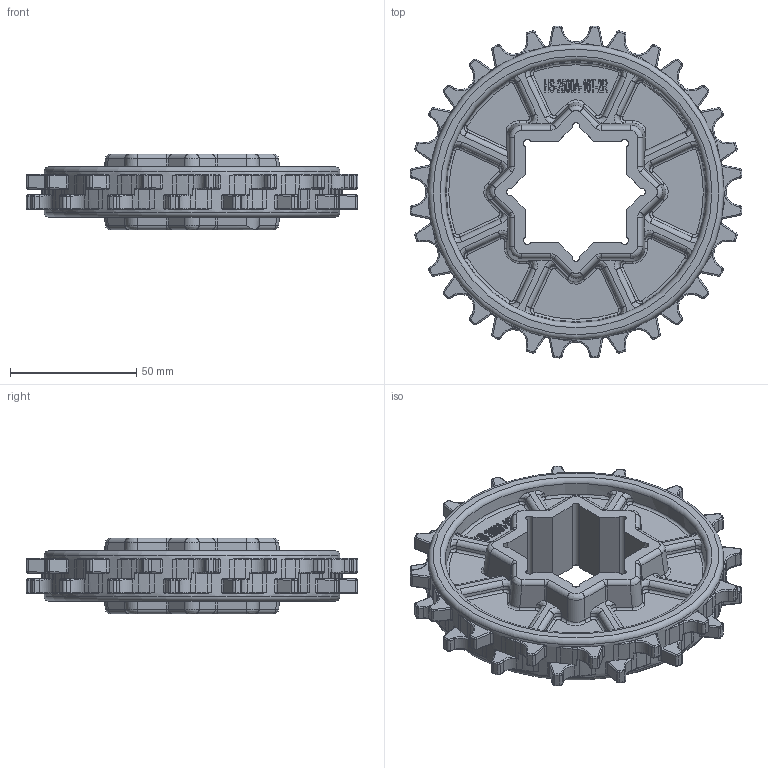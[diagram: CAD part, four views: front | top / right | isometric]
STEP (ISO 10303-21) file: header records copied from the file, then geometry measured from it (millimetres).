
FILE_DESCRIPTION(/* description */ (''),/* implementation_level */ '2;1');
FILE_NAME(/* name */ 'HS-2500A-16T-2R.stp',/* time_stamp */ '2024-02-19T15:39:24+08:00',/* author */ (''),/* organization */ (''),/* preprocessor_version */ 'ST-DEVELOPER v15',/* originating_system */ 'SIEMENS PLM Software NX 8.5',/* authorisation */ '');
FILE_SCHEMA (('AP203_CONFIGURATION_CONTROLLED_3D_DESIGN_OF_MECHANICAL_PARTS_AND_ASSEMBLIES_MIM_LF { 1 0 10303 403 2 1 2}'));
Products named in the file (1): Admi2D380351ze2j
Bounding box: 131.48 x 131.48 x 30 mm (x, y, z)
Volume: 132228.3 mm3; surface area: 44349.9 mm2
Topology: 1 solids, 1 shells, 1618 faces, 3954 edges, 2375 vertices
Faces by surface type: cylinder 516, bspline 455, plane 334, torus 244, extrusion 35, revolution 32, cone 2
Full cylindrical faces by diameter (mm): 117.2 x1
Entity records: 58625 total; most frequent: CARTESIAN_POINT 23295, ORIENTED_EDGE 7892, DIRECTION 6771, EDGE_CURVE 3946, AXIS2_PLACEMENT_3D 2705, VERTEX_POINT 2375, EDGE_LOOP 1665, ADVANCED_FACE 1618
